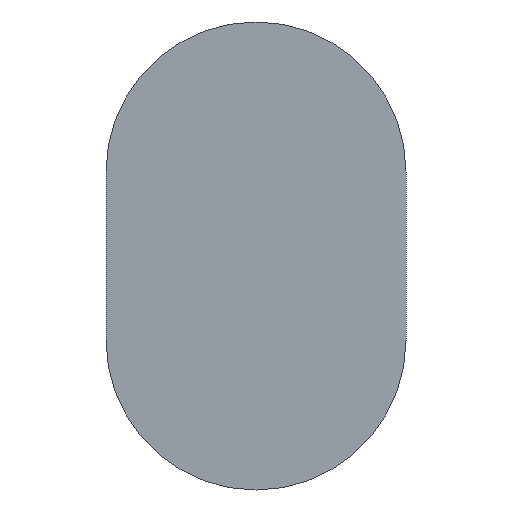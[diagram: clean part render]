
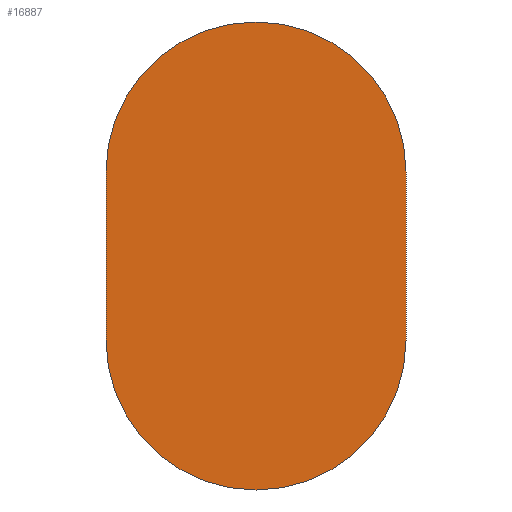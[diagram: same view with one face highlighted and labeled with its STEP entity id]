
A CAD part, front view. The second image highlights one B-rep face of the part: STEP entity #16887.
In plain terms, the highlighted planar face has unit normal (0, -1, 0).
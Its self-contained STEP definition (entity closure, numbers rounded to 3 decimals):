
#5674=DIRECTION('',(0.,0.,1.));
#5675=VECTOR('',#5674,70.);
#5676=CARTESIAN_POINT('',(-62.5,2.,-32.5));
#5677=LINE('',#5676,#5675);
#5678=CARTESIAN_POINT('',(0.,2.,37.5));
#5679=DIRECTION('',(0.,1.,0.));
#5680=DIRECTION('',(-1.,0.,0.));
#5681=AXIS2_PLACEMENT_3D('',#5678,#5679,#5680);
#5683=DIRECTION('',(0.,0.,-1.));
#5684=VECTOR('',#5683,70.);
#5685=CARTESIAN_POINT('',(62.5,2.,37.5));
#5686=LINE('',#5685,#5684);
#5687=CARTESIAN_POINT('',(0.,2.,-32.5));
#5688=DIRECTION('',(0.,1.,0.));
#5689=DIRECTION('',(1.,0.,0.));
#5690=AXIS2_PLACEMENT_3D('',#5687,#5688,#5689);
#9452=CARTESIAN_POINT('',(-62.5,2.,-32.5));
#9453=CARTESIAN_POINT('',(-62.5,2.,37.5));
#9454=VERTEX_POINT('',#9452);
#9455=VERTEX_POINT('',#9453);
#9456=CARTESIAN_POINT('',(62.5,2.,37.5));
#9457=CARTESIAN_POINT('',(62.5,2.,-32.5));
#9458=VERTEX_POINT('',#9456);
#9459=VERTEX_POINT('',#9457);
#16876=CARTESIAN_POINT('',(0.,2.,0.));
#16877=DIRECTION('',(0.,1.,0.));
#16878=DIRECTION('',(1.,0.,0.));
#16879=AXIS2_PLACEMENT_3D('',#16876,#16877,#16878);
#16880=PLANE('',#16879);
#16881=ORIENTED_EDGE('',*,*,#16843,.T.);
#16882=ORIENTED_EDGE('',*,*,#16857,.T.);
#16883=ORIENTED_EDGE('',*,*,#16870,.T.);
#16884=ORIENTED_EDGE('',*,*,#16828,.T.);
#16885=EDGE_LOOP('',(#16881,#16882,#16883,#16884));
#16886=FACE_OUTER_BOUND('',#16885,.F.);
#16887=ADVANCED_FACE('',(#16886),#16880,.F.);
#5682=CIRCLE('',#5681,62.5);
#5691=CIRCLE('',#5690,62.5);
#16828=EDGE_CURVE('',#9459,#9454,#5691,.T.);
#16843=EDGE_CURVE('',#9454,#9455,#5677,.T.);
#16857=EDGE_CURVE('',#9455,#9458,#5682,.T.);
#16870=EDGE_CURVE('',#9458,#9459,#5686,.T.);
